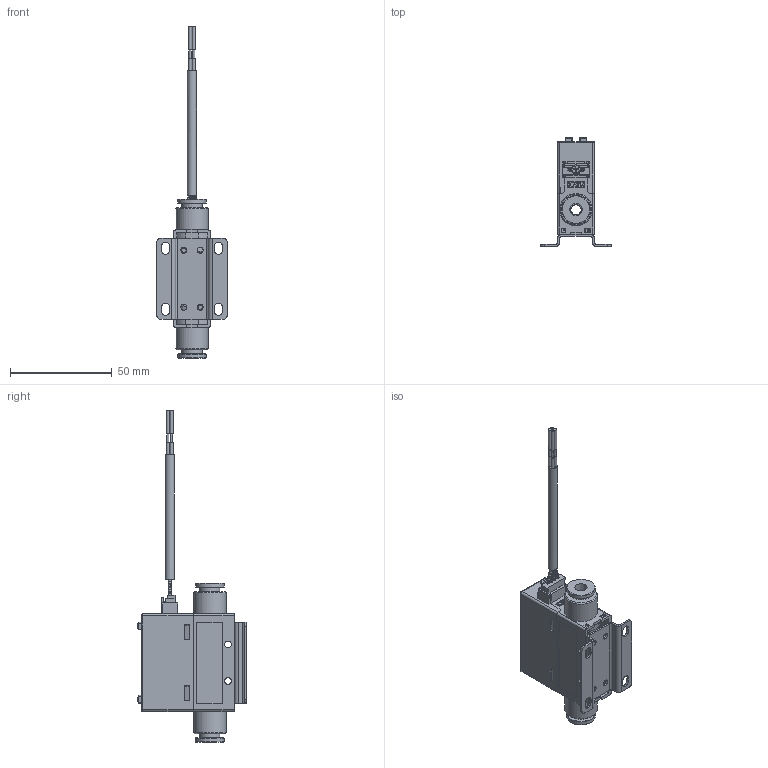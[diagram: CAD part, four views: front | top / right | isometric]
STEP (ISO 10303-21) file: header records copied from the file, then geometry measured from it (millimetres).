
FILE_DESCRIPTION( (''), '2;1');
FILE_NAME( 'QGKK_10L_push-in.step', '2024-04-25T11:15:43+08:00', (''), (''), '', '', '');
FILE_SCHEMA (('AUTOMOTIVE_DESIGN { 1 0 10303 214 3 1 1 1 }'));
Length unit declared in the file: millimetre
Products named in the file (1): QGKK 10L_push-in
Bounding box: 34.6 x 53.5 x 163.3 mm (x, y, z)
Volume: 32339.5 mm3; surface area: 25376.2 mm2
Topology: 4 solids, 6 shells, 921 faces, 2496 edges, 1638 vertices
Faces by surface type: plane 599, cylinder 174, torus 81, extrusion 38, cone 21, bspline 5, sphere 3
Full cylindrical faces by diameter (mm): 1 x4, 1.5 x8, 2.2 x2, 3 x4, 3.3 x4, 4.5 x1, 5 x1, 6 x4, 10 x4, 14 x4, 16 x2
Entity records: 29888 total; most frequent: CARTESIAN_POINT 6868, ORIENTED_EDGE 4810, DIRECTION 4521, EDGE_CURVE 2405, VECTOR 1717, LINE 1679, VERTEX_POINT 1618, AXIS2_PLACEMENT_3D 1402
